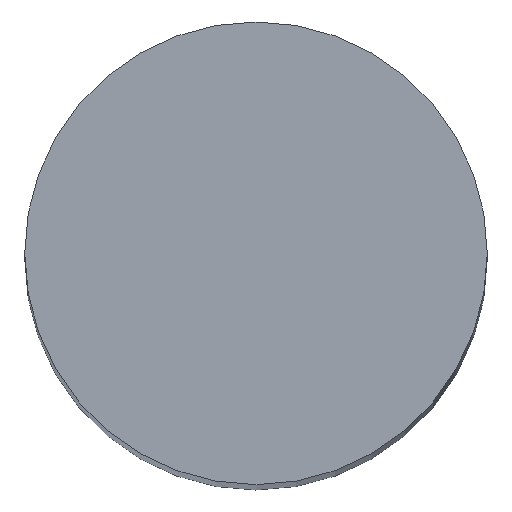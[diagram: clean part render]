
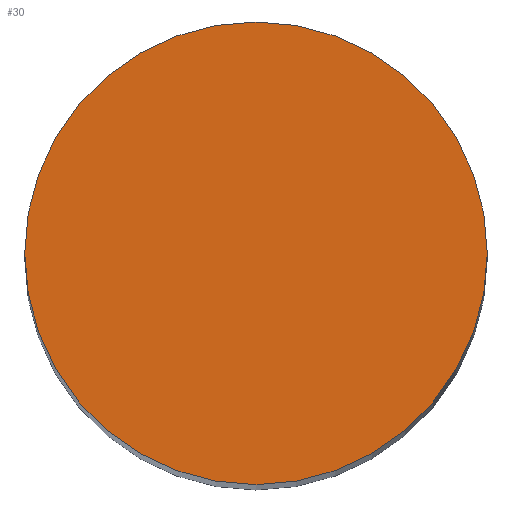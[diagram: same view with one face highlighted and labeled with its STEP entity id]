
A CAD part, top view. The second image highlights one B-rep face of the part: STEP entity #30.
In plain terms, the highlighted planar face has unit normal (0, 0, 1).
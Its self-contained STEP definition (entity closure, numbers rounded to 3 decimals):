
#1 = DIRECTION ( 'NONE',  ( 1., 0., 0. ) ) ;
#18 = ORIENTED_EDGE ( 'NONE', *, *, #27, .T. ) ;
#19 = EDGE_LOOP ( 'NONE', ( #18, #29 ) ) ;
#27 = EDGE_CURVE ( 'NONE', #36, #35, #62, .T. ) ;
#29 = ORIENTED_EDGE ( 'NONE', *, *, #34, .T. ) ;
#30 = ADVANCED_FACE ( 'NONE', ( #82 ), #78, .T. ) ;
#34 = EDGE_CURVE ( 'NONE', #35, #36, #56, .T. ) ;
#35 = VERTEX_POINT ( 'NONE', #83 ) ;
#36 = VERTEX_POINT ( 'NONE', #97 ) ;
#53 = DIRECTION ( 'NONE',  ( 0., 0., 1. ) ) ;
#54 = CARTESIAN_POINT ( 'NONE',  ( 0., 0., 400. ) ) ;
#55 = AXIS2_PLACEMENT_3D ( 'NONE', #54, #53, #1 ) ;
#56 = CIRCLE ( 'NONE', #55, 30. ) ;
#62 = CIRCLE ( 'NONE', #81, 30. ) ;
#64 = DIRECTION ( 'NONE',  ( 1., 0., 0. ) ) ;
#65 = DIRECTION ( 'NONE',  ( 0., 0., 1. ) ) ;
#66 = AXIS2_PLACEMENT_3D ( 'NONE', #77, #65, #64 ) ;
#72 = CARTESIAN_POINT ( 'NONE',  ( 0., 0., 400. ) ) ;
#77 = CARTESIAN_POINT ( 'NONE',  ( 0., 0., 400. ) ) ;
#78 = PLANE ( 'NONE',  #66 ) ;
#79 = DIRECTION ( 'NONE',  ( 1., 0., 0. ) ) ;
#80 = DIRECTION ( 'NONE',  ( 0., 0., 1. ) ) ;
#81 = AXIS2_PLACEMENT_3D ( 'NONE', #72, #80, #79 ) ;
#82 = FACE_OUTER_BOUND ( 'NONE', #19, .T. ) ;
#83 = CARTESIAN_POINT ( 'NONE',  ( 30., 0., 400. ) ) ;
#97 = CARTESIAN_POINT ( 'NONE',  ( -30., 0., 400. ) ) ;
